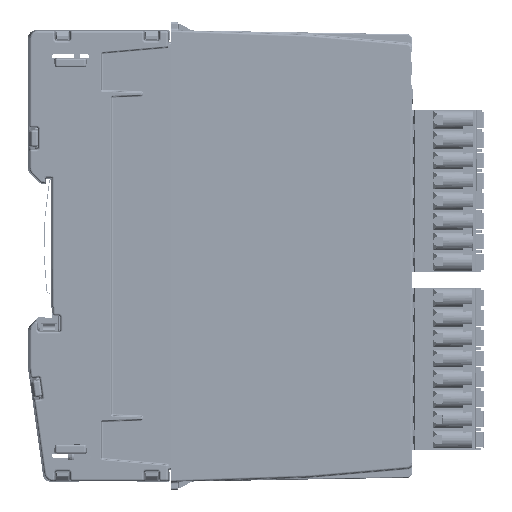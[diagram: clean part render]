
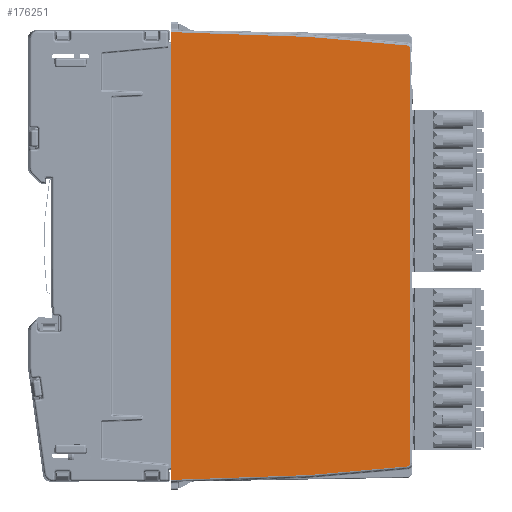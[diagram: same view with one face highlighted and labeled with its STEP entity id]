
A CAD part, left-side view. The second image highlights one B-rep face of the part: STEP entity #176251.
In plain terms, the highlighted planar face has unit normal (-1, -0.018, 0).
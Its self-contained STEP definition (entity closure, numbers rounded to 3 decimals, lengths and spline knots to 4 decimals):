
#15394=FACE_OUTER_BOUND('',#24883,.T.);
#24883=EDGE_LOOP('',(#138382,#138383,#138384,#138385,#138386,#138387,#138388,
#138389,#138390,#138391));
#40017=LINE('',#291165,#57641);
#40019=LINE('',#291174,#57643);
#40020=LINE('',#291176,#57644);
#40021=LINE('',#291180,#57645);
#40022=LINE('',#291183,#57646);
#40023=LINE('',#291185,#57647);
#40024=LINE('',#291187,#57648);
#40025=LINE('',#291188,#57649);
#57641=VECTOR('',#224014,39.3701);
#57643=VECTOR('',#224022,39.3701);
#57644=VECTOR('',#224023,39.3701);
#57645=VECTOR('',#224026,39.3701);
#57646=VECTOR('',#224029,39.3701);
#57647=VECTOR('',#224030,39.3701);
#57648=VECTOR('',#224031,39.3701);
#57649=VECTOR('',#224032,39.3701);
#65029=ELLIPSE('',#188840,0.0315,0.0315);
#65030=ELLIPSE('',#188841,0.0315,0.0315);
#76317=VERTEX_POINT('',#291163);
#76318=VERTEX_POINT('',#291164);
#76321=VERTEX_POINT('',#291172);
#76322=VERTEX_POINT('',#291173);
#76323=VERTEX_POINT('',#291175);
#76324=VERTEX_POINT('',#291177);
#76325=VERTEX_POINT('',#291179);
#76326=VERTEX_POINT('',#291181);
#76327=VERTEX_POINT('',#291184);
#76328=VERTEX_POINT('',#291186);
#97985=EDGE_CURVE('',#76317,#76318,#40017,.T.);
#97989=EDGE_CURVE('',#76321,#76322,#40019,.T.);
#97990=EDGE_CURVE('',#76322,#76323,#40020,.T.);
#97991=EDGE_CURVE('',#76323,#76324,#65029,.T.);
#97992=EDGE_CURVE('',#76324,#76325,#40021,.T.);
#97993=EDGE_CURVE('',#76325,#76326,#65030,.T.);
#97994=EDGE_CURVE('',#76326,#76317,#40022,.T.);
#97995=EDGE_CURVE('',#76318,#76327,#40023,.T.);
#97996=EDGE_CURVE('',#76328,#76327,#40024,.T.);
#97997=EDGE_CURVE('',#76328,#76321,#40025,.T.);
#138382=ORIENTED_EDGE('',*,*,#97989,.T.);
#138383=ORIENTED_EDGE('',*,*,#97990,.T.);
#138384=ORIENTED_EDGE('',*,*,#97991,.T.);
#138385=ORIENTED_EDGE('',*,*,#97992,.T.);
#138386=ORIENTED_EDGE('',*,*,#97993,.T.);
#138387=ORIENTED_EDGE('',*,*,#97994,.T.);
#138388=ORIENTED_EDGE('',*,*,#97985,.T.);
#138389=ORIENTED_EDGE('',*,*,#97995,.T.);
#138390=ORIENTED_EDGE('',*,*,#97996,.F.);
#138391=ORIENTED_EDGE('',*,*,#97997,.T.);
#159605=PLANE('',#188839);
#176251=ADVANCED_FACE('',(#15394),#159605,.T.);
#188839=AXIS2_PLACEMENT_3D('',#291171,#224020,#224021);
#188840=AXIS2_PLACEMENT_3D('',#291178,#224024,#224025);
#188841=AXIS2_PLACEMENT_3D('',#291182,#224027,#224028);
#224014=DIRECTION('',(-0.017,0.999,0.035));
#224020=DIRECTION('center_axis',(-1.,-0.017,
0.));
#224021=DIRECTION('ref_axis',(-0.017,1.,0.));
#224022=DIRECTION('',(0.017,-0.999,0.035));
#224023=DIRECTION('',(0.017,-0.996,0.087));
#224024=DIRECTION('center_axis',(-1.,-0.017,
0.));
#224025=DIRECTION('ref_axis',(0.017,-1.,0.));
#224026=DIRECTION('',(0.,0.,1.));
#224027=DIRECTION('center_axis',(-1.,-0.017,
0.));
#224028=DIRECTION('ref_axis',(0.017,-1.,0.));
#224029=DIRECTION('',(-0.017,0.996,0.087));
#224030=DIRECTION('',(0.,0.,-1.));
#224031=DIRECTION('',(0.,0.,1.));
#224032=DIRECTION('',(0.,0.,-1.));
#291163=CARTESIAN_POINT('',(0.0007,-2.2205,0.0616));
#291164=CARTESIAN_POINT('',(-0.0227,-0.8827,0.1083));
#291165=CARTESIAN_POINT('',(-0.0282,-0.5654,0.1194));
#291171=CARTESIAN_POINT('Origin',(-0.0296,-0.489,
-2.0669));
#291172=CARTESIAN_POINT('',(-0.0227,-0.8827,-4.2421));
#291173=CARTESIAN_POINT('',(0.0007,-2.2205,-4.1954));
#291174=CARTESIAN_POINT('',(-0.0282,-0.5654,-4.2532));
#291175=CARTESIAN_POINT('',(0.0174,-3.1772,-4.1117));
#291176=CARTESIAN_POINT('',(-0.0261,-0.6869,-4.3296));
#291177=CARTESIAN_POINT('',(0.0179,-3.2059,-4.0803));
#291178=CARTESIAN_POINT('Origin',(0.0173,-3.1744,
-4.0803));
#291179=CARTESIAN_POINT('',(0.0179,-3.2059,-0.0535));
#291180=CARTESIAN_POINT('',(0.0179,-3.2059,-0.0535));
#291181=CARTESIAN_POINT('',(0.0174,-3.1772,-0.0221));
#291182=CARTESIAN_POINT('Origin',(0.0173,-3.1744,
-0.0535));
#291183=CARTESIAN_POINT('',(-0.0261,-0.6869,0.1957));
#291184=CARTESIAN_POINT('',(-0.0227,-0.8827,-0.0312));
#291185=CARTESIAN_POINT('',(-0.0227,-0.8827,0.128));
#291186=CARTESIAN_POINT('',(-0.0227,-0.8827,-4.1027));
#291187=CARTESIAN_POINT('',(-0.0227,-0.8827,-7.5932));
#291188=CARTESIAN_POINT('',(-0.0227,-0.8827,0.128));
